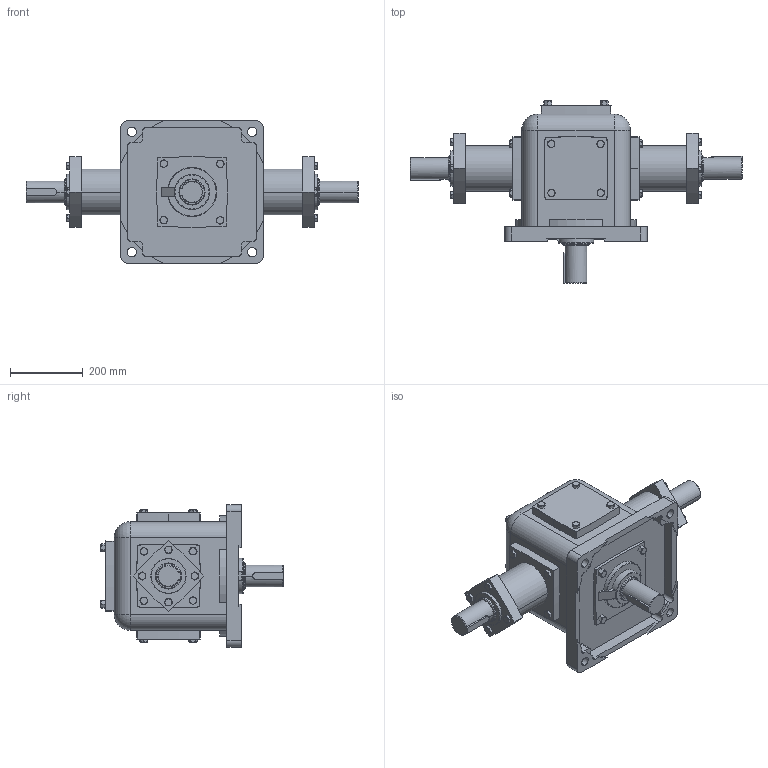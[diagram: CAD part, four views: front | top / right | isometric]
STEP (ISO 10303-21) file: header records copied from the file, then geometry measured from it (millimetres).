
FILE_DESCRIPTION (( 'STEP AP203' ), '1' );
FILE_NAME ('T16-1£º1-1-1-D-V5.step', '2018-07-12T08:41:57', ( 'IT Division' ), ( 'IT' ), 'SwSTEP 2.0', 'SolidWorks 2016', '' );
FILE_SCHEMA (( 'CONFIG_CONTROL_DESIGN' ));
Length unit declared in the file: millimetre
Products named in the file (1): T16-1：1-1-1-D-V5
Bounding box: 910 x 501 x 390 mm (x, y, z)
Volume: 38215076.3 mm3; surface area: 1173178.8 mm2
Topology: 4 solids, 4 shells, 675 faces, 1591 edges, 969 vertices
Faces by surface type: plane 298, cone 227, cylinder 113, torus 33, sphere 4
Entity records: 22690 total; most frequent: CARTESIAN_POINT 7616, ORIENTED_EDGE 3174, DIRECTION 3015, EDGE_CURVE 1587, AXIS2_PLACEMENT_3D 1172, VERTEX_POINT 969, EDGE_LOOP 732, FACE_OUTER_BOUND 675
